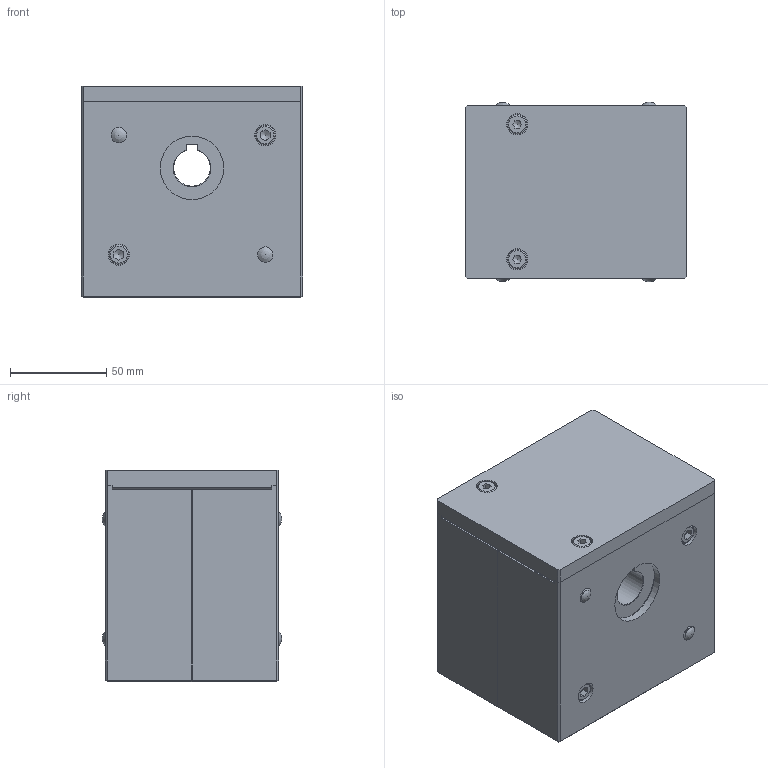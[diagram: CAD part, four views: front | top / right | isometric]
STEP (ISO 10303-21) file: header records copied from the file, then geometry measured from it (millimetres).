
FILE_DESCRIPTION((''),'2;1');
FILE_NAME('C:\Documents and Settings\Administrator\My Documents\Andys Backup Data\ANDY''S INVENTOR\INVENTOR LIBRARIES\MINITEC INVENTOR LIBRARIES\READY FOR USE MODULES LR\A PACKED FILES\STEP FILES\28.0082_5 TIMING BELT PULLEY T90 19mm.stp','2010-07-01T08:10:54',('Administrator'),(''),'Autodesk Inventor 2009','Autodesk Inventor 2009','');
FILE_SCHEMA(('CONFIG_CONTROL_DESIGN'));
Length unit declared in the file: millimetre
Products named in the file (9): 28.0082_5 TIMING BELT PULLEY T90 19mm; 28.0082_5 T90 PULLEY 19mm; 28.0082 T90 BEARING 35X62X14; 28.0082 T90 RIGHT SIDE 33mm HOLE; 28.0082 T90 LEFT SIDE 33mm HOLE; 28.0082 T90 TOP; 21.1238  M6 x 16; M6X55 CAP SCREW HIGH HEAD; HOLE CAP 6mm THREADED
Assembly tree (16 placements, depth 2):
  28.0082_5 TIMING BELT PULLEY T90 19mm
    28.0082_5 T90 PULLEY 19mm
    28.0082 T90 BEARING 35X62X14  x2
    28.0082 T90 RIGHT SIDE 33mm HOLE
    28.0082 T90 LEFT SIDE 33mm HOLE
    28.0082 T90 TOP
    21.1238  M6 x 16  x2
    M6X55 CAP SCREW HIGH HEAD  x4
    HOLE CAP 6mm THREADED  x4
Bounding box: 115 x 93 x 110 mm (x, y, z)
Volume: 895864.3 mm3; surface area: 192855.7 mm2
Topology: 16 solids, 18 shells, 445 faces, 1154 edges, 731 vertices
Faces by surface type: plane 182, bspline 125, cylinder 85, sphere 22, cone 17, torus 14
Full cylindrical faces by diameter (mm): 4 x4, 5.75 x4, 6 x9, 6.6 x2, 10 x6, 33 x1, 35 x3, 42 x1, 43.802 x4, 53.198 x2, 56 x1, 62 x3, 66.04 x1
Entity records: 10392 total; most frequent: CARTESIAN_POINT 2631, ORIENTED_EDGE 1516, DIRECTION 1513, EDGE_CURVE 758, AXIS2_PLACEMENT_3D 522, VERTEX_POINT 515, VECTOR 469, LINE 469
